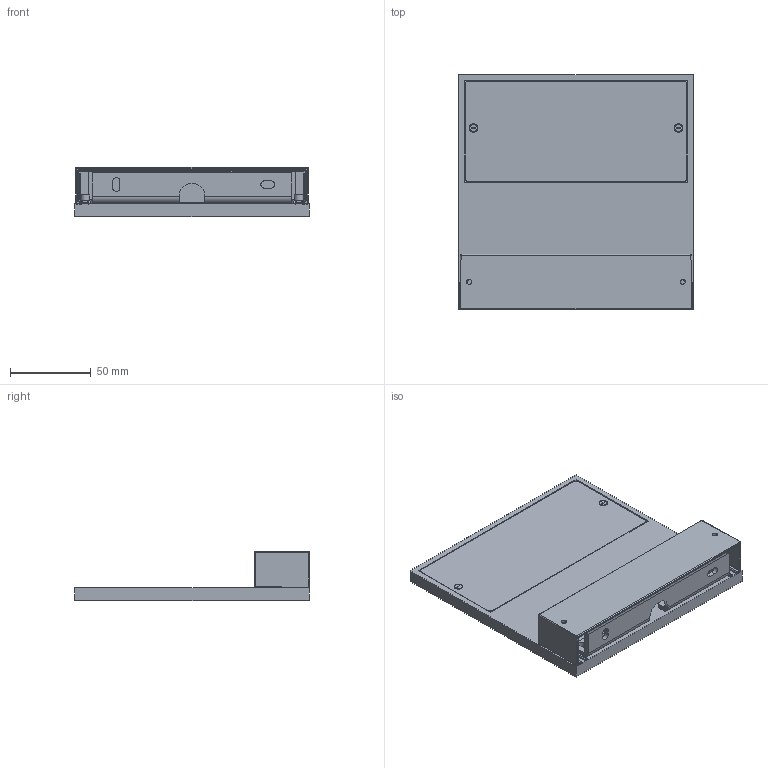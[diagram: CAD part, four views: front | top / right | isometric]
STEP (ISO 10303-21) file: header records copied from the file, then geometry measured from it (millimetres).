
FILE_DESCRIPTION((''),'2;1');
FILE_NAME('SOTTILE_145_SW0001','2025-05-13T14:03:14',('elena.baldelli'),(''),'CREO PARAMETRIC BY PTC INC, 2020354','CREO PARAMETRIC BY PTC INC, 2020354','');
FILE_SCHEMA(('CONFIG_CONTROL_DESIGN'));
Length unit declared in the file: millimetre
Products named in the file (1): SOTTILE_145_SW0001
Bounding box: 145 x 145 x 30.29 mm (x, y, z)
Surface area: 77078.4 mm2 (no closed solid volume)
Topology: 0 solids, 11 shells, 157 faces, 440 edges, 290 vertices
Faces by surface type: cylinder 66, plane 65, sphere 14, cone 8, bspline 4
Entity records: 5873 total; most frequent: CARTESIAN_POINT 1838, DIRECTION 862, ORIENTED_EDGE 722, EDGE_CURVE 440, AXIS2_PLACEMENT_3D 295, VERTEX_POINT 290, VECTOR 272, LINE 272
